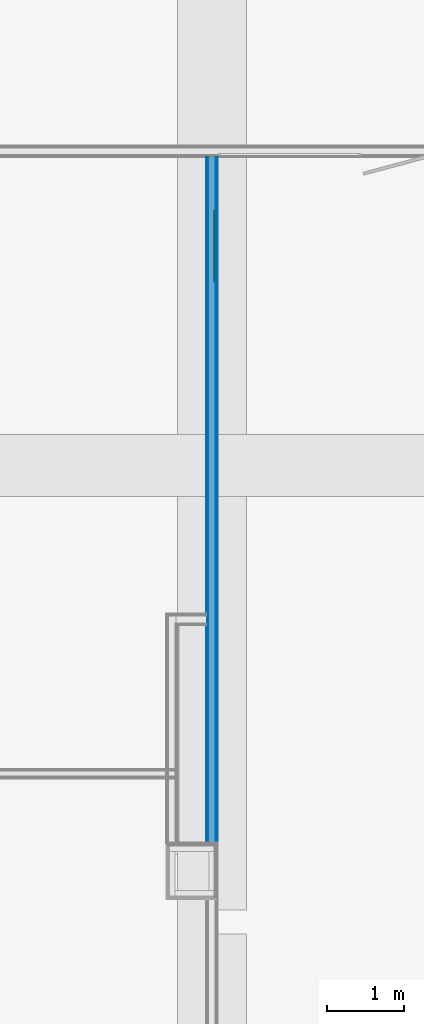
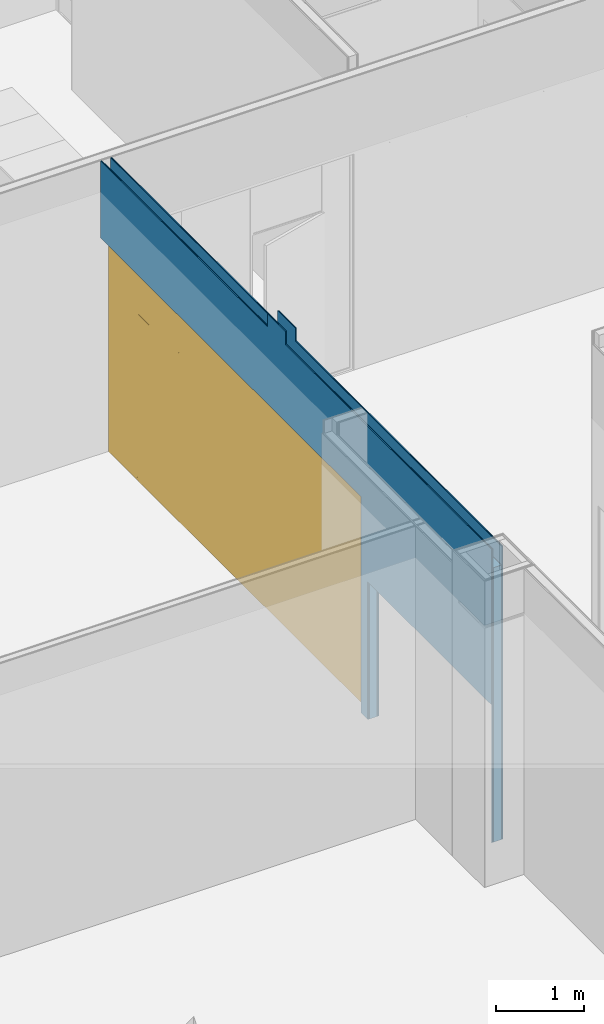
# One storey, part 45 of 94: 5 building element parts, 1 door, 2 openings, 1 element without a shape of its own.
"""IFC2X3 building model written with IfcOpenShell, lengths in millimetres."""

import ifcopenshell
import ifcopenshell.guid

model = None  # the IFC model being written
_history = None  # IfcOwnerHistory: only IFC2X3 demands one
_inside = {}  # id of a spatial element -> (the spatial element, [elements in it])
_under = {}  # id of a project, library or spatial element -> (it, [spatial elements below it])
_declared = {}  # id of a project -> (the project, [libraries it declares])
_typed = {}  # id of a type object -> (the type object, [elements of that type])
_made_of = {}  # id of a material, layer set ... -> (it, [elements and type objects made of it])


def new_model(schema):
    """Start an empty IFC model of exactly this schema.

    Asked for "IFC4X3", IfcOpenShell would pick the latest addendum, in which some entities
    have other attributes; the version numbers below select the first issue.
    IFC2X3 requires an IfcOwnerHistory on every rooted entity: one is made here for all.
    """
    global model, _history
    if schema == "IFC4X3":
        model = ifcopenshell.file(schema_version=(4, 3, 0, 0))
    else:
        model = ifcopenshell.file(schema=schema)
    _inside.clear()
    _under.clear()
    _declared.clear()
    _typed.clear()
    _made_of.clear()
    _history = None
    if model.schema == "IFC2X3":
        org = make("IfcOrganization", Name="unknown")
        user = make(
            "IfcPersonAndOrganization",
            ThePerson=make("IfcPerson", FamilyName="unknown"),
            TheOrganization=org,
        )
        app = make(
            "IfcApplication",
            ApplicationDeveloper=org,
            Version="unknown",
            ApplicationFullName="unknown",
            ApplicationIdentifier="unknown",
        )
        _history = make(
            "IfcOwnerHistory",
            OwningUser=user,
            OwningApplication=app,
            ChangeAction="ADDED",
            CreationDate=0,
        )
    return model


def make(cls, **values):
    """One entity of the class cls with the attributes given. An attribute that is None is left unset."""
    return model.create_entity(
        cls, **{name: value for name, value in values.items() if value is not None}
    )


def entity(cls, *values):
    """Any entity or typed value of the class cls, its attributes in the order of the schema. None: left unset."""
    e = model.create_entity(cls)
    for i, value in enumerate(values):
        if value is not None:
            e[i] = value
    return e


def rooted(cls, **values):
    """An entity with a GlobalId (a new one), such as an element, a storey or a relation."""
    return make(cls, GlobalId=ifcopenshell.guid.new(), OwnerHistory=_history, **values)


def si_unit(unit_type, name, prefix=None):
    """IfcSIUnit, for example si_unit("LENGTHUNIT", "METRE", prefix="MILLI")."""
    return make("IfcSIUnit", UnitType=unit_type, Prefix=prefix, Name=name)


def converted_unit(unit_type, name, factor, base, dimensions=None, offset=None):
    """IfcConversionBasedUnit, such as the inch: factor (a typed value) times the base unit."""
    return make(
        "IfcConversionBasedUnit"
        if offset is None
        else "IfcConversionBasedUnitWithOffset",
        ConversionOffset=offset,
        Dimensions=None
        if dimensions is None
        else entity("IfcDimensionalExponents", *dimensions),
        UnitType=unit_type,
        Name=name,
        ConversionFactor=make(
            "IfcMeasureWithUnit", ValueComponent=factor, UnitComponent=base
        ),
    )


def derived_unit(unit_type, elements):
    """IfcDerivedUnit: a product of units, each with its exponent."""
    return make(
        "IfcDerivedUnit",
        Elements=[
            make("IfcDerivedUnitElement", Unit=unit, Exponent=power)
            for unit, power in elements
        ],
        UnitType=unit_type,
    )


def money_unit(currency):
    """IfcMonetaryUnit."""
    return make("IfcMonetaryUnit", Currency=currency)


def assignment(units):
    """IfcUnitAssignment: the units of a project."""
    return None if units is None else make("IfcUnitAssignment", Units=units)


def point(xyz):
    """IfcCartesianPoint."""
    return None if xyz is None else make("IfcCartesianPoint", Coordinates=xyz)


def direction(xyz):
    """IfcDirection."""
    return None if xyz is None else make("IfcDirection", DirectionRatios=xyz)


def frame(location, z_axis=None, x_axis=None):
    """IfcAxis2Placement3D, a coordinate frame: its origin and axes. An axis left out is left unset."""
    return make(
        "IfcAxis2Placement3D",
        Location=point(location),
        Axis=direction(z_axis),
        RefDirection=direction(x_axis),
    )


def origin_with_axes():
    """The frame at (0, 0, 0) with the z axis (0, 0, 1) and the x axis (1, 0, 0) written out."""
    return frame((0.0, 0.0, 0.0), z_axis=(0.0, 0.0, 1.0), x_axis=(1.0, 0.0, 0.0))


def place(relative_to, where):
    """IfcLocalPlacement: puts the frame where relative to a parent placement (None: the world)."""
    return make(
        "IfcLocalPlacement", PlacementRelTo=relative_to, RelativePlacement=where
    )


def context(
    kind, dimensions, precision=None, world=None, true_north=None, identifier=None
):
    """IfcGeometricRepresentationContext, for example the 3D "Model" context."""
    return make(
        "IfcGeometricRepresentationContext",
        ContextIdentifier=identifier,
        ContextType=kind,
        CoordinateSpaceDimension=dimensions,
        Precision=precision,
        WorldCoordinateSystem=world,
        TrueNorth=true_north,
    )


def subcontext(parent, identifier, kind, view, scale=None):
    """IfcGeometricRepresentationSubContext, for example "Body" below "Model"."""
    return make(
        "IfcGeometricRepresentationSubContext",
        ContextIdentifier=identifier,
        ContextType=kind,
        ParentContext=parent,
        TargetScale=scale,
        TargetView=view,
    )


def project(units=None, contexts=None):
    """IfcProject with its units and contexts."""
    return rooted(
        "IfcProject",
        Name="project",
        RepresentationContexts=contexts,
        UnitsInContext=assignment(units),
    )


def spatial(cls, under=None, at=None, **own):
    """A site, building, storey or space (cls), placed at a placement, below another one or the project."""
    s = rooted(cls, ObjectPlacement=at, **own)
    if under is not None:
        _under.setdefault(under.id(), (under, []))[1].append(s)
    return s


def faces_of(points, faces, orient=None, outer=None):
    """IfcFace entities. A face is a list of loops; a loop is a list of indices into points, from 0.

    orient and outer hold one flag for each loop. By default every Orientation is true, the
    first loop of a face is its IfcFaceOuterBound and the others are IfcFaceBound.
    """
    made = []
    for i, loops in enumerate(faces):
        bounds = []
        for j, loop in enumerate(loops):
            is_outer = j == 0 if outer is None else outer[i][j]
            bounds.append(
                make(
                    "IfcFaceOuterBound" if is_outer else "IfcFaceBound",
                    Bound=make("IfcPolyLoop", Polygon=[points[k] for k in loop]),
                    Orientation=True if orient is None else orient[i][j],
                )
            )
        made.append(make("IfcFace", Bounds=bounds))
    return made


def open_shell(faces, orient=None, outer=None):
    """The faces of one IfcOpenShell. surface_model builds it on its shared points."""
    return ("IfcOpenShell", faces, orient, outer)


def faceted_brep(points, faces, orient=None, outer=None, voids=None):
    """IfcFacetedBrep: a solid bounded by flat faces; with voids (closed shells), ...WithVoids."""
    shared = [point(p) for p in points]
    hull = make("IfcClosedShell", CfsFaces=faces_of(shared, faces, orient, outer))
    if voids is None:
        return make("IfcFacetedBrep", Outer=hull)
    return make(
        "IfcFacetedBrepWithVoids",
        Outer=hull,
        Voids=[
            make(cls, CfsFaces=faces_of(shared, fs, o, b)) for cls, fs, o, b in voids
        ],
    )


def surface_model(cls, points, shells):
    """IfcFaceBasedSurfaceModel or IfcShellBasedSurfaceModel (cls): surfaces that need not close."""
    shared = [point(p) for p in points]
    made = [make(c, CfsFaces=faces_of(shared, fs, o, b)) for c, fs, o, b in shells]
    if cls == "IfcFaceBasedSurfaceModel":
        return make(cls, FbsmFaces=made)
    return make(cls, SbsmBoundary=made)


def shape(context_of_items, identifier, shape_type, items):
    """IfcShapeRepresentation: the items that make up one representation, for example the "Body"."""
    return make(
        "IfcShapeRepresentation",
        ContextOfItems=context_of_items,
        RepresentationIdentifier=identifier,
        RepresentationType=shape_type,
        Items=items,
    )


def material(Name=None, Category=None):
    """IfcMaterial."""
    return make("IfcMaterial", Name=Name, Category=Category)


def made_of(thing, what):
    """Note that an element or type object is made of a material, layer set ...; save() writes the relation."""
    if what is not None:
        _made_of.setdefault(what.id(), (what, []))[1].append(thing)
    return thing


def type_object(cls, material=None, **own):
    """A type object (cls), such as IfcWallType, which elements share."""
    return made_of(rooted(cls, **own), material)


def element(
    cls,
    number,
    at=None,
    inside=None,
    cuts=None,
    type_object=None,
    material=None,
    context=None,
    identifier="Body",
    shape_type=None,
    held_by="IfcProductDefinitionShape",
    body=None,
    shapes=None,
    **own,
):
    """One element of the class cls, such as IfcWall. Its Tag is "e" and its number.

    at: its placement. inside: the storey or other place that contains it. cuts: it is an
    opening in that element (IfcRelVoidsElement). A single representation is given by context,
    identifier, shape_type and body (its items); several are given by shapes. held_by: the class
    of the entity that holds the representations. save() writes the other relations.
    """
    e = rooted(cls, Tag="e%d" % number, ObjectPlacement=at, **own)
    if body is not None:
        shapes = [shape(context, identifier, shape_type, body)]
    if shapes is not None:
        e.Representation = make(held_by, Representations=shapes)
    if inside is not None:
        _inside.setdefault(inside.id(), (inside, []))[1].append(e)
    if cuts is not None:
        rooted(
            "IfcRelVoidsElement", RelatingBuildingElement=cuts, RelatedOpeningElement=e
        )
    if type_object is not None:
        _typed.setdefault(type_object.id(), (type_object, []))[1].append(e)
    return made_of(e, material)


def fill(opening, filler):
    """IfcRelFillsElement: the door or window that sits in an opening."""
    return rooted(
        "IfcRelFillsElement",
        RelatingOpeningElement=opening,
        RelatedBuildingElement=filler,
    )


def aggregate(whole, parts):
    """IfcRelAggregates: a whole, such as a stair, and the parts it consists of."""
    return rooted("IfcRelAggregates", RelatingObject=whole, RelatedObjects=parts)


def save(model, path):
    """Write the relations noted so far, then the file.

    IfcRelAggregates (storeys below a building ...), IfcRelContainedInSpatialStructure (elements
    in a storey), IfcRelDefinesByType, IfcRelAssociatesMaterial and IfcRelDeclares: one each for
    every whole, place, type object, material and project.
    """
    for whole, parts in _under.values():
        aggregate(whole, parts)
    for where, things in _inside.values():
        rooted(
            "IfcRelContainedInSpatialStructure",
            RelatedElements=things,
            RelatingStructure=where,
        )
    for kind, things in _typed.values():
        rooted("IfcRelDefinesByType", RelatedObjects=things, RelatingType=kind)
    for what, things in _made_of.values():
        rooted("IfcRelAssociatesMaterial", RelatedObjects=things, RelatingMaterial=what)
    for by, libraries in _declared.values():
        rooted("IfcRelDeclares", RelatingContext=by, RelatedDefinitions=libraries)
    model.write(path)


model = new_model("IFC2X3")

# Units and contexts
model_context = context("Model", 3, precision=0.01, world=origin_with_axes(), true_north=direction((0.0, 1.0)))
body_context = subcontext(model_context, "Body", "Model", "MODEL_VIEW")
ifc_project = project(units=[si_unit("LENGTHUNIT", "METRE", prefix="MILLI"), si_unit("AREAUNIT", "SQUARE_METRE"), si_unit("VOLUMEUNIT", "CUBIC_METRE"), converted_unit("PLANEANGLEUNIT", "DEGREE", entity("IfcPlaneAngleMeasure", 0.0174532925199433), si_unit("PLANEANGLEUNIT", "RADIAN"), dimensions=[0, 0, 0, 0, 0, 0, 0]), money_unit("EUR"), converted_unit("TIMEUNIT", "Year", entity("IfcTimeMeasure", 31557600.0), si_unit("TIMEUNIT", "SECOND"), dimensions=[0, 0, 1, 0, 0, 0, 0]), si_unit("MASSUNIT", "GRAM", prefix="KILO"), si_unit("THERMODYNAMICTEMPERATUREUNIT", "DEGREE_CELSIUS"), si_unit("LUMINOUSINTENSITYUNIT", "LUMEN"), si_unit("ENERGYUNIT", "JOULE", prefix="MEGA"), derived_unit("THERMALCONDUCTANCEUNIT", [(si_unit("POWERUNIT", "WATT"), 1), (si_unit("LENGTHUNIT", "METRE"), -1), (si_unit("THERMODYNAMICTEMPERATUREUNIT", "KELVIN"), -1)]), derived_unit("SPECIFICHEATCAPACITYUNIT", [(si_unit("ENERGYUNIT", "JOULE"), 1), (si_unit("MASSUNIT", "GRAM", prefix="KILO"), -1), (si_unit("THERMODYNAMICTEMPERATUREUNIT", "KELVIN"), -1)]), derived_unit("MASSDENSITYUNIT", [(si_unit("MASSUNIT", "GRAM", prefix="KILO"), 1), (si_unit("VOLUMEUNIT", "CUBIC_METRE"), -1)])], contexts=[model_context])

# Site, building, storey
site_placement = place(None, origin_with_axes())
site = spatial("IfcSite", under=ifc_project, at=site_placement, Name="<site naam>", CompositionType="ELEMENT")
building_placement = place(site_placement, origin_with_axes())
building = spatial("IfcBuilding", under=site, at=building_placement, Name="<Naam gebouw>", CompositionType="ELEMENT")
storey_placement = place(building_placement, frame((0.0, 0.0, 4250.0), z_axis=(0.0, 0.0, 1.0), x_axis=(1.0, 0.0, 0.0)))
storey = spatial("IfcBuildingStorey", under=building, at=storey_placement, Name="01 1e verdieping", CompositionType="ELEMENT", Elevation=4250.0)

# Door
door_style = type_object("IfcDoorStyle", Name="D1 bl zl2 27", ConstructionType="NOTDEFINED", OperationType="USERDEFINED", ParameterTakesPrecedence=False, Sizeable=False)
wall_placement = place(storey_placement, frame((-3999.999999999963, 12000.93904046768, 0.0), z_axis=(0.0, 0.0, 1.0), x_axis=(0.0, -1.0, 0.0)))
opening_1_placement = place(wall_placement, frame((2963.406085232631, 0.0, 0.0), z_axis=(0.0, 0.0, 1.0), x_axis=(1.0, 0.0, 0.0)))
door_placement = place(opening_1_placement, frame((-2962.532859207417, 0.0, 0.0), z_axis=(0.0, 0.0, 1.0), x_axis=(1.0, 0.0, 0.0)))
door = element("IfcDoor", 1, at=door_placement, inside=storey, type_object=door_style, Name="22_BI-F-15_305", ObjectType="DOOR", OverallHeight=3000.0, OverallWidth=5925.07, context=body_context, shape_type="SurfaceModel", body=[
    faceted_brep([(5925.065718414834, 49.99999999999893, 0.0), (5925.065718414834, 29.99999999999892, 0.0), (5892.065718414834, 29.99999999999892, 0.0), (5892.065718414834, 49.99999999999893, 0.0), (5925.065718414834, 49.99999999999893, 2967.0), (5925.065718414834, 29.99999999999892, 2967.0), (5892.065718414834, 29.99999999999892, 2967.0), (5892.065718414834, 29.99999999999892, 33.00000000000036), (5892.065718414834, 49.99999999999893, 33.00000000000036), (5892.065718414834, 49.99999999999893, 2967.0)], [[[0, 1, 2, 3]], [[4, 5, 1, 0]], [[1, 5, 6, 7, 2]], [[3, 2, 7, 8]], [[0, 3, 8, 9, 4]], [[9, 6, 5, 4]], [[8, 7, 6, 9]]]),
    faceted_brep([(1617.000000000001, 29.9999999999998, 0.0), (1642.000000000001, 29.9999999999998, 0.0), (1642.000000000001, 29.9999999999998, 32.99999999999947), (1642.000000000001, 29.9999999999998, 2967.0), (1600.000000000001, 29.9999999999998, 2967.0), (1600.000000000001, 29.9999999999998, 2333.0), (1600.000000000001, 29.9999999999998, 2317.0), (1617.000000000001, 29.9999999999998, 2317.0), (1617.000000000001, 49.99999999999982, 0.0), (1642.000000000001, 49.99999999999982, 0.0), (1642.000000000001, 49.99999999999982, 32.99999999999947), (1642.000000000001, 49.99999999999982, 2967.0), (1600.000000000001, 49.99999999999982, 2967.0), (1600.000000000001, 49.99999999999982, 2333.0), (1600.000000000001, 49.99999999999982, 2317.0), (1617.000000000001, 49.99999999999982, 2317.0)], [[[0, 1, 2, 3, 4, 5, 6, 7]], [[8, 9, 1, 0]], [[9, 10, 2, 1]], [[10, 11, 3, 2]], [[11, 12, 4, 3]], [[12, 13, 5, 4]], [[6, 5, 13, 14]], [[14, 15, 7, 6]], [[7, 15, 8, 0]], [[15, 14, 13, 12, 11, 10, 9, 8]]]),
    faceted_brep([(5892.065718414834, 49.99999999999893, 33.00000000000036), (5892.065718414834, 29.99999999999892, 33.00000000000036), (5892.065718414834, 29.99999999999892, 0.0), (5892.065718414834, 49.99999999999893, 0.0), (1642.000000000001, 49.99999999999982, 33.00000000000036), (1642.000000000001, 29.9999999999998, 33.00000000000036), (1642.000000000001, 29.9999999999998, 0.0), (1642.000000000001, 49.99999999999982, 0.0)], [[[0, 1, 2, 3]], [[4, 5, 1, 0]], [[1, 5, 6, 2]], [[3, 2, 6, 7]], [[0, 3, 7, 4]], [[7, 6, 5, 4]]]),
    faceted_brep([(0.0, 49.99999999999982, 0.0), (0.0, 29.9999999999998, 0.0), (0.0, 30.00000000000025, 2967.0), (0.0, 50.00000000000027, 2967.0), (33.00000000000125, 49.99999999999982, 0.0), (33.00000000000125, 29.9999999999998, 0.0), (33.00000000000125, 29.9999999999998, 33.00000000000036), (33.00000000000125, 30.00000000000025, 2967.0), (33.00000000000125, 50.00000000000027, 2967.0), (33.00000000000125, 49.99999999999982, 33.00000000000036)], [[[0, 1, 2, 3]], [[4, 5, 1, 0]], [[1, 5, 6, 7, 2]], [[3, 2, 7, 8]], [[0, 3, 8, 9, 4]], [[9, 6, 5, 4]], [[8, 7, 6, 9]]]),
    faceted_brep([(683.0000000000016, 29.9999999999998, 2317.0), (700.000000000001, 29.9999999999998, 2317.0), (700.000000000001, 29.9999999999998, 2333.0), (700.000000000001, 29.9999999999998, 2967.0), (658.0000000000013, 29.9999999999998, 2967.0), (658.0000000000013, 29.9999999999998, 32.99999999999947), (658.0000000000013, 29.9999999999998, 0.0), (683.0000000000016, 29.9999999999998, 0.0), (683.0000000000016, 49.99999999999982, 2317.0), (700.000000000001, 49.99999999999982, 2317.0), (700.000000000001, 49.99999999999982, 2333.0), (700.000000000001, 49.99999999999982, 2967.0), (658.0000000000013, 49.99999999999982, 2967.0), (658.0000000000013, 49.99999999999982, 32.99999999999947), (658.0000000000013, 49.99999999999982, 0.0), (683.0000000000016, 49.99999999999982, 0.0)], [[[0, 1, 2, 3, 4, 5, 6, 7]], [[0, 8, 9, 1]], [[9, 10, 2, 1]], [[10, 11, 3, 2]], [[11, 12, 4, 3]], [[12, 13, 5, 4]], [[13, 14, 6, 5]], [[7, 6, 14, 15]], [[7, 15, 8, 0]], [[8, 15, 14, 13, 12, 11, 10, 9]]]),
    faceted_brep([(658.0000000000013, 49.99999999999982, 33.00000000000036), (658.0000000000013, 29.9999999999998, 33.00000000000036), (658.0000000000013, 29.9999999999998, 0.0), (658.0000000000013, 49.99999999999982, 0.0), (33.00000000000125, 49.99999999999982, 33.00000000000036), (33.00000000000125, 29.9999999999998, 33.00000000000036), (33.00000000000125, 29.9999999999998, 0.0), (33.00000000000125, 49.99999999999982, 0.0)], [[[0, 1, 2, 3]], [[4, 5, 1, 0]], [[1, 5, 6, 2]], [[3, 2, 6, 7]], [[0, 3, 7, 4]], [[7, 6, 5, 4]]]),
    faceted_brep([(5925.065718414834, 49.99999999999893, 3000.0), (5925.065718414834, 29.99999999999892, 3000.0), (5925.065718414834, 29.99999999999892, 2967.0), (5925.065718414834, 49.99999999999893, 2967.0), (0.0, 50.00000000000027, 3000.0), (0.0, 30.00000000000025, 3000.0), (0.0, 30.00000000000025, 2967.0), (33.00000000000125, 30.00000000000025, 2967.0), (658.0000000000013, 29.9999999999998, 2967.0), (700.000000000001, 29.9999999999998, 2967.0), (1600.000000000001, 29.9999999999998, 2967.0), (1642.000000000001, 29.9999999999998, 2967.0), (5892.065718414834, 29.99999999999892, 2967.0), (5892.065718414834, 49.99999999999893, 2967.0), (1642.000000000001, 49.99999999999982, 2967.0), (1600.000000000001, 49.99999999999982, 2967.0), (700.000000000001, 49.99999999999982, 2967.0), (658.0000000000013, 49.99999999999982, 2967.0), (33.00000000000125, 50.00000000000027, 2967.0), (0.0, 50.00000000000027, 2967.0)], [[[0, 1, 2, 3]], [[4, 5, 1, 0]], [[1, 5, 6, 7, 8, 9, 10, 11, 12, 2]], [[3, 2, 12, 13]], [[0, 3, 13, 14, 15, 16, 17, 18, 19, 4]], [[19, 6, 5, 4]], [[18, 7, 6, 19]], [[17, 8, 7, 18]], [[16, 9, 8, 17]], [[15, 10, 9, 16]], [[14, 11, 10, 15]], [[13, 12, 11, 14]]]),
    faceted_brep([(1600.000000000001, 29.9999999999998, 2317.0), (1600.000000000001, 29.9999999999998, 2333.0), (700.000000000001, 29.9999999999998, 2333.0), (700.000000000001, 29.9999999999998, 2317.0), (1600.000000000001, 49.99999999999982, 2317.0), (1600.000000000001, 49.99999999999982, 2333.0), (700.000000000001, 49.99999999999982, 2333.0), (700.000000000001, 49.99999999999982, 2317.0)], [[[0, 1, 2, 3]], [[4, 5, 1, 0]], [[5, 6, 2, 1]], [[3, 2, 6, 7]], [[7, 4, 0, 3]], [[7, 6, 5, 4]]]),
    faceted_brep([(683.0000000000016, 67.99999999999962, 0.0), (1617.000000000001, 67.99999999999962, 0.0), (1617.000000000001, 27.99999999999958, 0.0), (683.0000000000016, 27.99999999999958, 0.0), (683.0000000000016, 67.99999999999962, 2317.0), (1617.000000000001, 67.99999999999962, 2317.0), (1617.000000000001, 27.99999999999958, 2317.0), (683.0000000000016, 28.00000000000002, 2317.0)], [[[0, 1, 2, 3]], [[0, 4, 5, 1]], [[1, 5, 6, 2]], [[3, 2, 6, 7]], [[4, 0, 3, 7]], [[5, 4, 7, 6]]]),
    surface_model("IfcShellBasedSurfaceModel", [(1600.000000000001, 23.99999999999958, 2333.0), (1600.000000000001, 24.00000000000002, 2967.0), (700.000000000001, 24.00000000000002, 2967.0), (700.000000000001, 24.00000000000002, 2333.0)], [open_shell([[[0, 1, 2, 3]]])]),
    surface_model("IfcShellBasedSurfaceModel", [(1600.000000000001, 35.99999999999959, 2333.0), (700.000000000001, 36.00000000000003, 2333.0), (700.000000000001, 36.00000000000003, 2967.0), (1600.000000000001, 35.99999999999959, 2967.0)], [open_shell([[[0, 1, 2, 3]]])]),
    surface_model("IfcShellBasedSurfaceModel", [(5046.052574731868, 23.99999999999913, 33.00000000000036), (5892.065718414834, 23.99999999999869, 33.00000000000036), (5892.065718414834, 23.99999999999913, 2967.0), (5046.052574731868, 23.99999999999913, 2967.0)], [open_shell([[[0, 1, 2, 3]]])]),
    surface_model("IfcShellBasedSurfaceModel", [(5046.052574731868, 35.99999999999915, 33.00000000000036), (5046.052574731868, 35.99999999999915, 2967.0), (5892.065718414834, 35.99999999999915, 2967.0), (5892.065718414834, 35.9999999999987, 33.00000000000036)], [open_shell([[[0, 1, 2, 3]]])]),
    surface_model("IfcShellBasedSurfaceModel", [(4195.039431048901, 23.99999999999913, 33.00000000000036), (5041.052574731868, 23.99999999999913, 33.00000000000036), (5041.052574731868, 23.99999999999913, 2967.0), (4195.039431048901, 23.99999999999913, 2967.0)], [open_shell([[[0, 1, 2, 3]]])]),
    surface_model("IfcShellBasedSurfaceModel", [(4195.039431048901, 35.99999999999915, 33.00000000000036), (4195.039431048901, 35.99999999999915, 2967.0), (5041.052574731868, 35.99999999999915, 2967.0), (5041.052574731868, 35.99999999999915, 33.00000000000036)], [open_shell([[[0, 1, 2, 3]]])]),
    surface_model("IfcShellBasedSurfaceModel", [(3344.026287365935, 23.99999999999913, 33.00000000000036), (4190.039431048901, 23.99999999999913, 33.00000000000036), (4190.039431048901, 23.99999999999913, 2967.0), (3344.026287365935, 23.99999999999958, 2967.0)], [open_shell([[[0, 1, 2, 3]]])]),
    surface_model("IfcShellBasedSurfaceModel", [(3344.026287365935, 35.99999999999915, 33.00000000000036), (3344.026287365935, 35.99999999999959, 2967.0), (4190.039431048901, 35.99999999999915, 2967.0), (4190.039431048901, 35.99999999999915, 33.00000000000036)], [open_shell([[[0, 1, 2, 3]]])]),
    surface_model("IfcShellBasedSurfaceModel", [(2493.013143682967, 23.99999999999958, 33.00000000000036), (3339.026287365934, 23.99999999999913, 33.00000000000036), (3339.026287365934, 23.99999999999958, 2967.0), (2493.013143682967, 23.99999999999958, 2967.0)], [open_shell([[[0, 1, 2, 3]]])]),
    surface_model("IfcShellBasedSurfaceModel", [(2493.013143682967, 35.99999999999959, 33.00000000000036), (2493.013143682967, 35.99999999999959, 2967.0), (3339.026287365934, 35.99999999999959, 2967.0), (3339.026287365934, 35.99999999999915, 33.00000000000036)], [open_shell([[[0, 1, 2, 3]]])]),
    surface_model("IfcShellBasedSurfaceModel", [(1642.000000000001, 23.99999999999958, 33.00000000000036), (2488.013143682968, 23.99999999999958, 33.00000000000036), (2488.013143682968, 23.99999999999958, 2967.0), (1642.000000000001, 23.99999999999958, 2967.0)], [open_shell([[[0, 1, 2, 3]]])]),
    surface_model("IfcShellBasedSurfaceModel", [(1642.000000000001, 35.99999999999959, 33.00000000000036), (1642.000000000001, 35.99999999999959, 2967.0), (2488.013143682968, 35.99999999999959, 2967.0), (2488.013143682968, 35.99999999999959, 33.00000000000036)], [open_shell([[[0, 1, 2, 3]]])]),
    faceted_brep([(5046.052574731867, 44.99999999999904, 33.00000000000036), (5041.052574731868, 44.99999999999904, 33.00000000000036), (5041.052574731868, 49.99999999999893, 33.00000000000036), (5046.052574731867, 49.99999999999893, 33.00000000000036), (5046.052574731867, 44.99999999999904, 2967.0), (5041.052574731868, 44.99999999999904, 2967.0), (5041.052574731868, 49.99999999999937, 2967.0), (5046.052574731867, 49.99999999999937, 2967.0)], [[[0, 1, 2, 3]], [[0, 4, 5, 1]], [[1, 5, 6, 2]], [[3, 2, 6, 7]], [[4, 0, 3, 7]], [[5, 4, 7, 6]]]),
    faceted_brep([(4195.039431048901, 44.99999999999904, 33.00000000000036), (4190.039431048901, 44.99999999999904, 33.00000000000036), (4190.039431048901, 49.99999999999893, 33.00000000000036), (4195.039431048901, 49.99999999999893, 33.00000000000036), (4195.039431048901, 44.99999999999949, 2967.0), (4190.039431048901, 44.99999999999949, 2967.0), (4190.039431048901, 49.99999999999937, 2967.0), (4195.039431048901, 49.99999999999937, 2967.0)], [[[0, 1, 2, 3]], [[0, 4, 5, 1]], [[1, 5, 6, 2]], [[3, 2, 6, 7]], [[4, 0, 3, 7]], [[5, 4, 7, 6]]]),
    faceted_brep([(3344.026287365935, 44.99999999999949, 33.00000000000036), (3339.026287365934, 44.99999999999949, 33.00000000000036), (3339.026287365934, 49.99999999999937, 33.00000000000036), (3344.026287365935, 49.99999999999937, 33.00000000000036), (3344.026287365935, 44.99999999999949, 2967.0), (3339.026287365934, 44.99999999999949, 2967.0), (3339.026287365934, 49.99999999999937, 2967.0), (3344.026287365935, 49.99999999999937, 2967.0)], [[[0, 1, 2, 3]], [[0, 4, 5, 1]], [[1, 5, 6, 2]], [[3, 2, 6, 7]], [[4, 0, 3, 7]], [[5, 4, 7, 6]]]),
    faceted_brep([(2493.013143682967, 44.99999999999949, 33.00000000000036), (2488.013143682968, 44.99999999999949, 33.00000000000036), (2488.013143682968, 49.99999999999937, 33.00000000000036), (2493.013143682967, 49.99999999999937, 33.00000000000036), (2493.013143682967, 44.99999999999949, 2967.0), (2488.013143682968, 44.99999999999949, 2967.0), (2488.013143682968, 49.99999999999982, 2967.0), (2493.013143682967, 49.99999999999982, 2967.0)], [[[0, 1, 2, 3]], [[0, 4, 5, 1]], [[1, 5, 6, 2]], [[3, 2, 6, 7]], [[4, 0, 3, 7]], [[5, 4, 7, 6]]]),
    surface_model("IfcShellBasedSurfaceModel", [(658.0000000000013, 24.00000000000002, 33.00000000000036), (658.0000000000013, 24.00000000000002, 2967.0), (33.00000000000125, 24.00000000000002, 2967.0), (33.00000000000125, 24.00000000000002, 33.00000000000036)], [open_shell([[[0, 1, 2, 3]]])]),
    surface_model("IfcShellBasedSurfaceModel", [(658.0000000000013, 35.99999999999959, 33.00000000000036), (33.00000000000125, 36.00000000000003, 33.00000000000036), (33.00000000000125, 36.00000000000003, 2967.0), (658.0000000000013, 36.00000000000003, 2967.0)], [open_shell([[[0, 1, 2, 3]]])]),
])

# Wall, opening
wall_type = type_object("IfcWallType", Name="MS-01 GF 150 ECO DGS/2.100.2.A 150", PredefinedType="NOTDEFINED")
wall = element("IfcWall", 2, at=wall_placement, inside=storey, type_object=wall_type, Name="22_Binnenwand_MS-01")
opening_1 = element("IfcOpeningElement", 3, at=opening_1_placement, cuts=wall, Name="22_BI-F-15_305", context=body_context, shape_type="Brep", body=[
    faceted_brep([(-2962.532859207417, 50.00000000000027, 0.0), (-2962.532859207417, 50.00000000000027, 3000.0), (-2962.532859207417, 76.00000000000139, 3000.0), (-2962.532859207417, 76.00000000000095, 0.0), (-2962.532859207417, -76.00000000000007, 0.0), (-2962.532859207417, -76.00000000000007, 3000.0), (2962.532859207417, 49.99999999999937, 3000.0), (2962.532859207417, 76.00000000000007, 3000.0), (2962.532859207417, -76.00000000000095, 3000.0), (2962.532859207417, 76.00000000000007, 0.0), (2962.532859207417, 49.99999999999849, 0.0), (2962.532859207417, -76.00000000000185, 0.0)], [[[0, 1, 2, 3]], [[1, 0, 4, 5]], [[6, 7, 2, 1, 5, 8]], [[7, 9, 3, 2]], [[0, 3, 9, 10, 11, 4]], [[5, 4, 11, 8]], [[6, 10, 9, 7]], [[10, 6, 8, 11]]]),
])

fill(opening_1, door)

# Opening
opening_2_placement = place(wall_placement, frame((12000.93904046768, 3999.999999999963, -4250.0), z_axis=(0.0, 0.0, 1.0), x_axis=(0.0, 1.0, 0.0)))
element("IfcOpeningElement", 4, at=opening_2_placement, cuts=wall, Name="22_Opening_", context=body_context, shape_type="Brep", body=[
    faceted_brep([(-4225.000209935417, 5925.103741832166, 4250.000000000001), (-4225.000209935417, 5925.103741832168, 6160.000000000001), (-3774.999580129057, 5925.103741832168, 6160.000000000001), (-3774.999580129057, 5925.103741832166, 4250.000000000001), (-4225.000209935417, 3105.103758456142, 4250.000000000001), (-4225.000209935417, 3105.103758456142, 6160.000000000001), (-3774.999580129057, 3105.103758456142, 6160.000000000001), (-3774.999580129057, 3105.103758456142, 4250.000000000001)], [[[0, 1, 2, 3]], [[0, 4, 5, 1]], [[1, 5, 6, 2]], [[3, 2, 6, 7]], [[4, 0, 3, 7]], [[5, 4, 7, 6]]]),
])

# Building element part
ifc_material_1 = material(Name="gipsplaat")
building_element_part_1_placement = place(wall_placement, origin_with_axes())
building_element_part_1 = element("IfcBuildingElementPart", 5, at=building_element_part_1_placement, material=ifc_material_1, Name="gipsplaat", context=body_context, shape_type="Brep", body=[
    faceted_brep([(3800.939040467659, 74.99999999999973, 4250.0), (3800.939040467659, 62.49999999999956, 4250.0), (4200.93904046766, 62.49999999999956, 4250.0), (4200.93904046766, 74.99999999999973, 4250.0), (3800.939040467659, 75.00008958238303, 4070.000000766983), (3800.939040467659, 62.49999999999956, 4070.000000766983), (0.9390404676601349, 62.50000000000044, 4070.000000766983), (0.9390404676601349, 62.50000000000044, 3.000000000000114), (5925.835244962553, 62.49999999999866, 3.000000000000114), (5925.835244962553, 62.49999999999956, 0.0), (8895.93906492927, 62.49999999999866, 0.0), (8895.93906492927, 62.49999999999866, 4070.000000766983), (4200.93904046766, 62.49999999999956, 4070.000000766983), (8895.835298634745, 62.49999999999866, 1910.000000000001), (8895.835298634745, 62.49999999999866, 1900.000000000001), (6075.835298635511, 62.49999999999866, 1900.000000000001), (6075.835298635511, 62.49999999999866, 1910.000000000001), (4200.93904046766, 75.00008958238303, 4070.000000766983), (8895.939064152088, 74.99999999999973, 4070.000000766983), (8895.939064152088, 74.99999999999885, 0.0), (5925.835244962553, 75.00008958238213, 0.0), (5925.835244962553, 75.00008958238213, 3.000000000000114), (0.9390404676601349, 75.00008958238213, 3.000000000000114), (0.9390404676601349, 75.00000379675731, 4070.000000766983), (6075.835298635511, 74.99996486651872, 1900.000000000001), (8895.835298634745, 74.99996486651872, 1900.000000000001), (8895.835298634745, 74.99996486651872, 1910.000000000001), (6075.835298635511, 74.99996486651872, 1910.000000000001)], [[[0, 1, 2, 3]], [[1, 0, 4, 5]], [[5, 6, 7, 8, 9, 10, 11, 12, 2, 1], [13, 14, 15, 16]], [[17, 3, 2, 12]], [[4, 0, 3, 17, 18, 19, 20, 21, 22, 23], [24, 25, 26, 27]], [[4, 23, 6, 5]], [[6, 23, 22, 7]], [[8, 7, 22, 21]], [[8, 21, 20, 9]], [[10, 9, 20, 19]], [[18, 11, 10, 19]], [[18, 17, 12, 11]], [[13, 26, 25, 14]], [[14, 25, 24, 15]], [[15, 24, 27, 16]], [[16, 27, 26, 13]]]),
])

building_element_part_2_placement = place(wall_placement, origin_with_axes())
building_element_part_2 = element("IfcBuildingElementPart", 6, at=building_element_part_2_placement, material=ifc_material_1, Name="gipsplaat", context=body_context, shape_type="Brep", body=[
    faceted_brep([(3800.939040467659, 62.49999999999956, 4250.0), (3800.939040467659, 56.50019946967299, 4250.0), (4200.93904046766, 56.50019946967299, 4250.0), (4200.93904046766, 62.49999999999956, 4250.0), (3800.939040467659, 62.49999999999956, 4070.000000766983), (3800.939040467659, 56.50019946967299, 4070.000000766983), (0.9390404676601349, 56.50019946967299, 4070.000000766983), (0.9390404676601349, 56.50019946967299, 3809.999755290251), (8895.939065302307, 56.50019946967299, 3809.999755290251), (8895.939065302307, 56.50019946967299, 4070.000000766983), (4200.93904046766, 56.50019946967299, 4070.000000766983), (4200.93904046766, 62.49999999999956, 4070.000000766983), (8895.93906492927, 62.49999999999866, 4070.000000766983), (8895.93906492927, 62.49999999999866, 0.0), (5925.835244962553, 62.49999999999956, 0.0), (5925.835244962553, 62.49999999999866, 3.000000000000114), (0.9390404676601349, 62.50000000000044, 3.000000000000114), (0.9390404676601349, 62.50000000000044, 4070.000000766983), (6075.835298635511, 62.49999999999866, 1910.000000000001), (6075.835298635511, 62.49999999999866, 1900.000000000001), (8895.835298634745, 62.49999999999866, 1900.000000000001), (8895.835298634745, 62.49999999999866, 1910.000000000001), (0.9390404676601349, 49.99999999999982, 3.000000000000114), (0.9390404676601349, 50.00000000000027, 3809.999755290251), (8895.939065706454, 49.99999999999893, 3809.999755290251), (8895.939065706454, 49.99999999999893, 0.0), (5925.835244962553, 49.99999999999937, 0.0), (5925.835244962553, 49.99999999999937, 3.000000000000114), (6075.835298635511, 49.99999999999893, 1910.000000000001), (6075.835298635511, 49.99999999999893, 1900.000000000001), (8895.835298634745, 49.99999999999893, 1900.000000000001), (8895.835298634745, 49.99999999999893, 1910.000000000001)], [[[0, 1, 2, 3]], [[1, 0, 4, 5]], [[5, 6, 7, 8, 9, 10, 2, 1]], [[11, 3, 2, 10]], [[4, 0, 3, 11, 12, 13, 14, 15, 16, 17], [18, 19, 20, 21]], [[4, 17, 6, 5]], [[6, 17, 16, 22, 23, 7]], [[8, 7, 23, 24]], [[12, 9, 8, 24, 25, 13]], [[12, 11, 10, 9]], [[13, 25, 26, 14]], [[26, 27, 15, 14]], [[15, 27, 22, 16]], [[28, 29, 19, 18]], [[29, 30, 20, 19]], [[30, 31, 21, 20]], [[31, 28, 18, 21]], [[25, 24, 23, 22, 27, 26], [28, 31, 30, 29]]]),
])

ifc_material_2 = material(Name="isolatie_steenwol LSW")
building_element_part_3_placement = place(wall_placement, origin_with_axes())
building_element_part_3 = element("IfcBuildingElementPart", 7, at=building_element_part_3_placement, material=ifc_material_2, Name="isolatie_steenwol LSW", context=body_context, shape_type="Brep", body=[
    faceted_brep([(0.9390404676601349, -49.99999999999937, 3809.999755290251), (0.9390404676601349, 50.00000000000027, 3809.999755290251), (0.9390404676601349, 49.99999999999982, 3.000000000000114), (0.9390404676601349, -50.00000000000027, 3.000000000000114), (8895.939065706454, 49.99999999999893, 3809.999755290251), (8895.93907192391, -50.00000000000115, 3809.999755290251), (8895.939065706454, 49.99999999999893, 0.0), (5925.835244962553, 49.99999999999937, 0.0), (5925.835244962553, 49.99999999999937, 3.000000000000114), (6075.835298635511, 49.99999999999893, 1900.000000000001), (8895.835298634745, 49.99999999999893, 1900.000000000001), (8895.835298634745, 49.99999999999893, 1910.000000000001), (6075.835298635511, 49.99999999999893, 1910.000000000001), (5925.835244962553, -50.00000000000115, 3.000000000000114), (5925.835244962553, -50.00000000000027, 0.0), (8895.93907192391, -50.00000000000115, 0.0), (8895.835298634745, -50.00000000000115, 1910.000000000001), (8895.835298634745, -50.00000000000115, 1900.000000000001), (6075.835298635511, -50.00000000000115, 1900.000000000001), (6075.835298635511, -50.00000000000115, 1910.000000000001)], [[[0, 1, 2, 3]], [[4, 1, 0, 5]], [[1, 4, 6, 7, 8, 2], [9, 10, 11, 12]], [[13, 3, 2, 8]], [[5, 0, 3, 13, 14, 15], [16, 17, 18, 19]], [[4, 5, 15, 6]], [[15, 14, 7, 6]], [[13, 8, 7, 14]], [[17, 10, 9, 18]], [[16, 11, 10, 17]], [[19, 12, 11, 16]], [[18, 9, 12, 19]]]),
])

building_element_part_4_placement = place(wall_placement, origin_with_axes())
building_element_part_4 = element("IfcBuildingElementPart", 8, at=building_element_part_4_placement, material=ifc_material_1, Name="gipsplaat", context=body_context, shape_type="Brep", body=[
    faceted_brep([(3800.939040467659, -56.50019946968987, 4250.0), (3800.939040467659, -62.49999999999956, 4250.0), (4200.93904046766, -62.49999999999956, 4250.0), (4200.93904046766, -56.50019946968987, 4250.0), (3800.939040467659, -56.50019946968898, 4070.000000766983), (3800.939040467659, -62.49999999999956, 4070.000000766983), (0.9390404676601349, -62.49999999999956, 4070.000000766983), (0.9390404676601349, -62.49999999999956, 3.000000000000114), (5925.835244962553, -62.50000000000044, 3.000000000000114), (5925.835244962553, -62.50000000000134, 0.0), (8895.939072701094, -62.50000000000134, 0.0), (8895.939072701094, -62.50000000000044, 4070.000000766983), (4200.93904046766, -62.49999999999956, 4070.000000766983), (6075.835298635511, -62.50000000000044, 1910.000000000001), (8895.835298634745, -62.50000000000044, 1910.000000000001), (8895.835298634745, -62.50000000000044, 1900.000000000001), (6075.835298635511, -62.50000000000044, 1900.000000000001), (4200.93904046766, -56.50019946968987, 4070.000000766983), (8895.939072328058, -56.50019946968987, 4070.000000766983), (8895.939072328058, -56.50019946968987, 3809.999755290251), (0.9390404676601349, -56.50019946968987, 3809.999755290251), (0.9390404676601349, -56.50019946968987, 4070.000000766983), (0.9390404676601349, -49.99999999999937, 3809.999755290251), (0.9390404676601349, -50.00000000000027, 3.000000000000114), (5925.835244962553, -50.00000000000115, 3.000000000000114), (5925.835244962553, -50.00000000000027, 0.0), (8895.93907192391, -50.00000000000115, 0.0), (8895.93907192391, -50.00000000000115, 3809.999755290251), (6075.835298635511, -50.00000000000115, 1910.000000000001), (8895.835298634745, -50.00000000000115, 1910.000000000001), (8895.835298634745, -50.00000000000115, 1900.000000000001), (6075.835298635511, -50.00000000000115, 1900.000000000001)], [[[0, 1, 2, 3]], [[1, 0, 4, 5]], [[5, 6, 7, 8, 9, 10, 11, 12, 2, 1], [13, 14, 15, 16]], [[17, 3, 2, 12]], [[4, 0, 3, 17, 18, 19, 20, 21]], [[4, 21, 6, 5]], [[6, 21, 20, 22, 23, 7]], [[24, 8, 7, 23]], [[9, 8, 24, 25]], [[26, 10, 9, 25]], [[18, 11, 10, 26, 27, 19]], [[18, 17, 12, 11]], [[14, 13, 28, 29]], [[15, 14, 29, 30]], [[16, 15, 30, 31]], [[13, 16, 31, 28]], [[19, 27, 22, 20]], [[23, 22, 27, 26, 25, 24], [28, 31, 30, 29]]]),
])

building_element_part_5_placement = place(wall_placement, origin_with_axes())
building_element_part_5 = element("IfcBuildingElementPart", 9, at=building_element_part_5_placement, material=ifc_material_1, Name="gipsplaat", context=body_context, shape_type="Brep", body=[
    faceted_brep([(3800.939040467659, -62.49999999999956, 4250.0), (3800.939040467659, -74.99999999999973, 4250.0), (4200.93904046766, -74.99999999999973, 4250.0), (4200.93904046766, -62.49999999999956, 4250.0), (3800.939040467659, -62.49999999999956, 4070.000000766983), (3800.939040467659, -75.00000000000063, 4070.000000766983), (0.9390404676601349, -74.99999999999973, 4070.000000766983), (0.9390404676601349, -74.99999999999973, 3.000000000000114), (5925.835244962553, -75.00000000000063, 3.000000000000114), (5925.835244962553, -75.00000000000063, 0.0), (8895.939073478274, -75.0000000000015, 0.0), (8895.939073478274, -75.00000000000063, 4070.000000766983), (4200.93904046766, -74.99999999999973, 4070.000000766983), (8895.835298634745, -75.00000000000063, 1910.000000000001), (8895.835298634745, -75.00000000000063, 1900.000000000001), (6075.835298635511, -75.00000000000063, 1900.000000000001), (6075.835298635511, -75.00000000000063, 1910.000000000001), (4200.93904046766, -62.50000000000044, 4070.000000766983), (8895.939072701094, -62.50000000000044, 4070.000000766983), (8895.939072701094, -62.50000000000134, 0.0), (5925.835244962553, -62.50000000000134, 0.0), (5925.835244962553, -62.50000000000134, 3.000000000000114), (0.9390404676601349, -62.49999999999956, 3.000000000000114), (0.9390404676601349, -62.49999999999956, 4070.000000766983), (6075.835298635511, -62.50000000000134, 1900.000000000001), (8895.835298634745, -62.50000000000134, 1900.000000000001), (8895.835298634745, -62.50000000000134, 1910.000000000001), (6075.835298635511, -62.50000000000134, 1910.000000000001)], [[[0, 1, 2, 3]], [[1, 0, 4, 5]], [[5, 6, 7, 8, 9, 10, 11, 12, 2, 1], [13, 14, 15, 16]], [[17, 3, 2, 12]], [[4, 0, 3, 17, 18, 19, 20, 21, 22, 23], [24, 25, 26, 27]], [[4, 23, 6, 5]], [[6, 23, 22, 7]], [[8, 7, 22, 21]], [[8, 21, 20, 9]], [[10, 9, 20, 19]], [[18, 11, 10, 19]], [[18, 17, 12, 11]], [[13, 26, 25, 14]], [[14, 25, 24, 15]], [[15, 24, 27, 16]], [[16, 27, 26, 13]]]),
])

aggregate(wall, [building_element_part_1, building_element_part_2, building_element_part_3, building_element_part_4, building_element_part_5])

save(model, "model.ifc")
